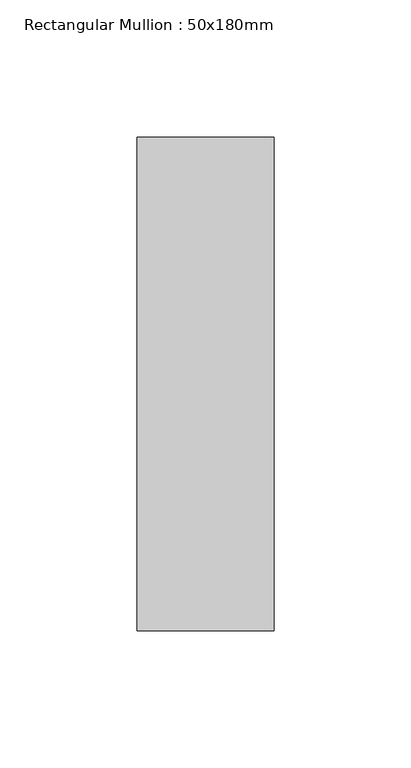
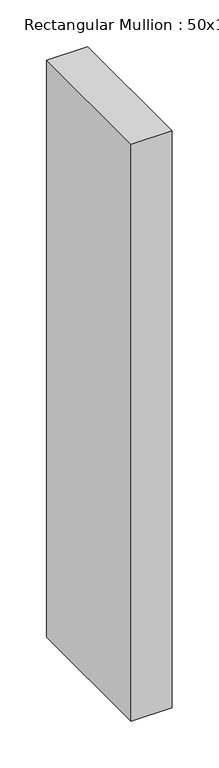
"""IFC4 building model written with IfcOpenShell, lengths in millimetres: member geometry, Rectangular Mullion : 50x180mm."""

import ifcopenshell
import ifcopenshell.guid

model = None  # the IFC model being written
_history = None  # IfcOwnerHistory: only IFC2X3 demands one
_inside = {}  # id of a spatial element -> (the spatial element, [elements in it])
_under = {}  # id of a project, library or spatial element -> (it, [spatial elements below it])
_declared = {}  # id of a project -> (the project, [libraries it declares])
_typed = {}  # id of a type object -> (the type object, [elements of that type])
_made_of = {}  # id of a material, layer set ... -> (it, [elements and type objects made of it])


def new_model(schema):
    """Start an empty IFC model of exactly this schema.

    Asked for "IFC4X3", IfcOpenShell would pick the latest addendum, in which some entities
    have other attributes; the version numbers below select the first issue.
    IFC2X3 requires an IfcOwnerHistory on every rooted entity: one is made here for all.
    """
    global model, _history
    if schema == "IFC4X3":
        model = ifcopenshell.file(schema_version=(4, 3, 0, 0))
    else:
        model = ifcopenshell.file(schema=schema)
    _inside.clear()
    _under.clear()
    _declared.clear()
    _typed.clear()
    _made_of.clear()
    _history = None
    if model.schema == "IFC2X3":
        org = make("IfcOrganization", Name="unknown")
        user = make(
            "IfcPersonAndOrganization",
            ThePerson=make("IfcPerson", FamilyName="unknown"),
            TheOrganization=org,
        )
        app = make(
            "IfcApplication",
            ApplicationDeveloper=org,
            Version="unknown",
            ApplicationFullName="unknown",
            ApplicationIdentifier="unknown",
        )
        _history = make(
            "IfcOwnerHistory",
            OwningUser=user,
            OwningApplication=app,
            ChangeAction="ADDED",
            CreationDate=0,
        )
    return model


def make(cls, **values):
    """One entity of the class cls with the attributes given. An attribute that is None is left unset."""
    return model.create_entity(
        cls, **{name: value for name, value in values.items() if value is not None}
    )


def rooted(cls, **values):
    """An entity with a GlobalId (a new one), such as an element, a storey or a relation."""
    return make(cls, GlobalId=ifcopenshell.guid.new(), OwnerHistory=_history, **values)


def si_unit(unit_type, name, prefix=None):
    """IfcSIUnit, for example si_unit("LENGTHUNIT", "METRE", prefix="MILLI")."""
    return make("IfcSIUnit", UnitType=unit_type, Prefix=prefix, Name=name)


def assignment(units):
    """IfcUnitAssignment: the units of a project."""
    return None if units is None else make("IfcUnitAssignment", Units=units)


def point(xyz):
    """IfcCartesianPoint."""
    return None if xyz is None else make("IfcCartesianPoint", Coordinates=xyz)


def direction(xyz):
    """IfcDirection."""
    return None if xyz is None else make("IfcDirection", DirectionRatios=xyz)


def frame(location, z_axis=None, x_axis=None):
    """IfcAxis2Placement3D, a coordinate frame: its origin and axes. An axis left out is left unset."""
    return make(
        "IfcAxis2Placement3D",
        Location=point(location),
        Axis=direction(z_axis),
        RefDirection=direction(x_axis),
    )


def origin():
    """The frame at (0, 0, 0) with its axes left unset."""
    return frame((0.0, 0.0, 0.0))


def place(relative_to, where):
    """IfcLocalPlacement: puts the frame where relative to a parent placement (None: the world)."""
    return make(
        "IfcLocalPlacement", PlacementRelTo=relative_to, RelativePlacement=where
    )


def context(
    kind, dimensions, precision=None, world=None, true_north=None, identifier=None
):
    """IfcGeometricRepresentationContext, for example the 3D "Model" context."""
    return make(
        "IfcGeometricRepresentationContext",
        ContextIdentifier=identifier,
        ContextType=kind,
        CoordinateSpaceDimension=dimensions,
        Precision=precision,
        WorldCoordinateSystem=world,
        TrueNorth=true_north,
    )


def project(units=None, contexts=None):
    """IfcProject with its units and contexts."""
    return rooted(
        "IfcProject",
        Name="project",
        RepresentationContexts=contexts,
        UnitsInContext=assignment(units),
    )


def spatial(cls, under=None, at=None, **own):
    """A site, building, storey or space (cls), placed at a placement, below another one or the project."""
    s = rooted(cls, ObjectPlacement=at, **own)
    if under is not None:
        _under.setdefault(under.id(), (under, []))[1].append(s)
    return s


def polyline(points):
    """IfcPolyline through the points."""
    return make("IfcPolyline", Points=[point(p) for p in points])


def outline(outer, holes=None, kind="AREA"):
    """IfcArbitraryClosedProfileDef: a profile drawn as a closed curve; with holes, ...WithVoids."""
    if holes is None:
        return make("IfcArbitraryClosedProfileDef", ProfileType=kind, OuterCurve=outer)
    return make(
        "IfcArbitraryProfileDefWithVoids",
        ProfileType=kind,
        OuterCurve=outer,
        InnerCurves=holes,
    )


def extrude(swept, where, along, depth):
    """IfcExtrudedAreaSolid: the profile swept, set in the frame where, extruded along a direction by depth."""
    return make(
        "IfcExtrudedAreaSolid",
        SweptArea=swept,
        Position=where,
        ExtrudedDirection=direction(along),
        Depth=depth,
    )


def shape(context_of_items, identifier, shape_type, items):
    """IfcShapeRepresentation: the items that make up one representation, for example the "Body"."""
    return make(
        "IfcShapeRepresentation",
        ContextOfItems=context_of_items,
        RepresentationIdentifier=identifier,
        RepresentationType=shape_type,
        Items=items,
    )


def source(mapping_origin, context_of_items, identifier, shape_type, items):
    """IfcRepresentationMap: a shape defined once, which mapped items show again and again."""
    return make(
        "IfcRepresentationMap",
        MappingOrigin=mapping_origin,
        MappedRepresentation=shape(context_of_items, identifier, shape_type, items),
    )


def transform(
    local_origin,
    x_axis=None,
    y_axis=None,
    z_axis=None,
    scale=None,
    scale2=None,
    scale3=None,
    uniform=True,
):
    """IfcCartesianTransformationOperator3D, or its non-uniform kind. x_axis, y_axis, z_axis: its Axis1, 2, 3."""
    if uniform:
        return make(
            "IfcCartesianTransformationOperator3D",
            Axis1=direction(x_axis),
            Axis2=direction(y_axis),
            LocalOrigin=point(local_origin),
            Scale=scale,
            Axis3=direction(z_axis),
        )
    return make(
        "IfcCartesianTransformationOperator3DnonUniform",
        Axis1=direction(x_axis),
        Axis2=direction(y_axis),
        LocalOrigin=point(local_origin),
        Scale=scale,
        Axis3=direction(z_axis),
        Scale2=scale2,
        Scale3=scale3,
    )


def mapped(mapping_source, mapping_target):
    """IfcMappedItem: shows the shape of a source again, moved by a transform."""
    return make(
        "IfcMappedItem", MappingSource=mapping_source, MappingTarget=mapping_target
    )


def made_of(thing, what):
    """Note that an element or type object is made of a material, layer set ...; save() writes the relation."""
    if what is not None:
        _made_of.setdefault(what.id(), (what, []))[1].append(thing)
    return thing


def element(
    cls,
    number,
    at=None,
    inside=None,
    cuts=None,
    type_object=None,
    material=None,
    context=None,
    identifier="Body",
    shape_type=None,
    held_by="IfcProductDefinitionShape",
    body=None,
    shapes=None,
    **own,
):
    """One element of the class cls, such as IfcWall. Its Tag is "e" and its number.

    at: its placement. inside: the storey or other place that contains it. cuts: it is an
    opening in that element (IfcRelVoidsElement). A single representation is given by context,
    identifier, shape_type and body (its items); several are given by shapes. held_by: the class
    of the entity that holds the representations. save() writes the other relations.
    """
    e = rooted(cls, Tag="e%d" % number, ObjectPlacement=at, **own)
    if body is not None:
        shapes = [shape(context, identifier, shape_type, body)]
    if shapes is not None:
        e.Representation = make(held_by, Representations=shapes)
    if inside is not None:
        _inside.setdefault(inside.id(), (inside, []))[1].append(e)
    if cuts is not None:
        rooted(
            "IfcRelVoidsElement", RelatingBuildingElement=cuts, RelatedOpeningElement=e
        )
    if type_object is not None:
        _typed.setdefault(type_object.id(), (type_object, []))[1].append(e)
    return made_of(e, material)


def aggregate(whole, parts):
    """IfcRelAggregates: a whole, such as a stair, and the parts it consists of."""
    return rooted("IfcRelAggregates", RelatingObject=whole, RelatedObjects=parts)


def save(model, path):
    """Write the relations noted so far, then the file.

    IfcRelAggregates (storeys below a building ...), IfcRelContainedInSpatialStructure (elements
    in a storey), IfcRelDefinesByType, IfcRelAssociatesMaterial and IfcRelDeclares: one each for
    every whole, place, type object, material and project.
    """
    for whole, parts in _under.values():
        aggregate(whole, parts)
    for where, things in _inside.values():
        rooted(
            "IfcRelContainedInSpatialStructure",
            RelatedElements=things,
            RelatingStructure=where,
        )
    for kind, things in _typed.values():
        rooted("IfcRelDefinesByType", RelatedObjects=things, RelatingType=kind)
    for what, things in _made_of.values():
        rooted("IfcRelAssociatesMaterial", RelatedObjects=things, RelatingMaterial=what)
    for by, libraries in _declared.values():
        rooted("IfcRelDeclares", RelatingContext=by, RelatedDefinitions=libraries)
    model.write(path)


def rectangular_mullion_50x180mm_55b63a96(model_context):
    return source(origin(), model_context, "Body", "SweptSolid", [
        extrude(outline(polyline([(0.0, 90.0), (0.0, -90.0), (-50.0, -90.0), (-50.0, 90.0), (0.0, 90.0)])), frame((0.0, 0.0, -750.0), z_axis=(0.0, 0.0, 1.0), x_axis=(1.0, 0.0, 0.0)), (0.0, 0.0, 1.0), 750.0),
    ])


if __name__ == "__main__":
    model = new_model("IFC4")
    model_context = context("Model", 3, world=origin())
    ifc_project = project(units=[si_unit("LENGTHUNIT", "METRE", prefix="MILLI")], contexts=[model_context])
    site = spatial("IfcSite", under=ifc_project)
    building = spatial("IfcBuilding", under=site)
    placement = place(None, origin())
    rectangular_mullion_50x180mm_shape = rectangular_mullion_50x180mm_55b63a96(model_context)
    element("IfcMember", 1, ObjectType="Rectangular Mullion : 50x180mm", at=placement, inside=building, context=model_context, shape_type="MappedRepresentation", body=[
        mapped(rectangular_mullion_50x180mm_shape, transform((0.0, 0.0, 0.0), x_axis=(1.0, 0.0, 0.0), y_axis=(0.0, 1.0, 0.0), z_axis=(0.0, 0.0, 1.0))),
    ])
    save(model, "model.ifc")
